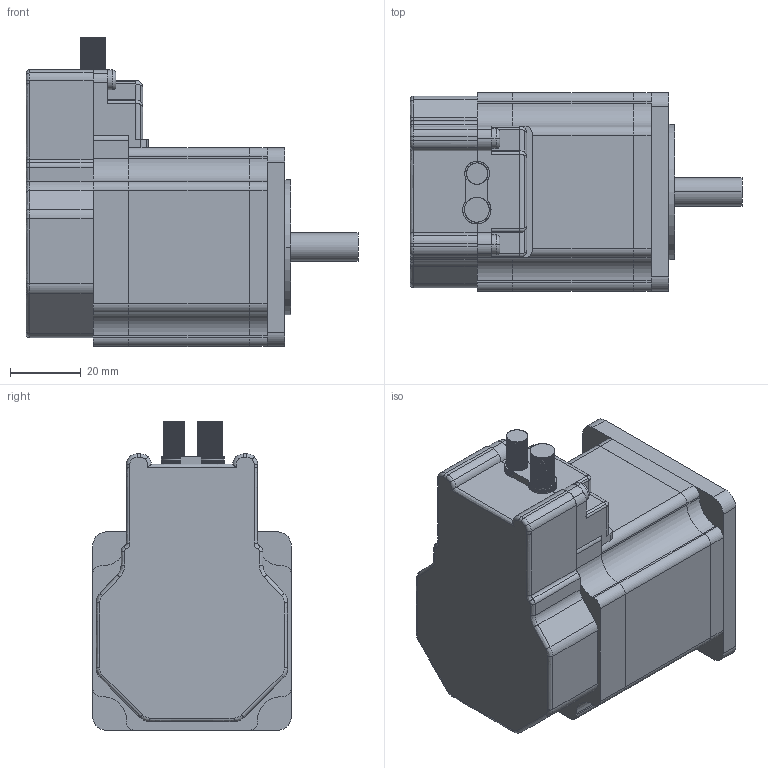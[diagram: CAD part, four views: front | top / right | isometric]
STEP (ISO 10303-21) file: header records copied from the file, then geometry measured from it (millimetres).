
FILE_DESCRIPTION(('STEP AP214'),'1');
FILE_NAME('\Tsurumi-main\3d_dad2\Servo_Motor\tmp0.STEP',' ',(' '),(' '),'XStep 1.0',' ',' ');
FILE_SCHEMA(('automotive_design'));
Length unit declared in the file: millimetre
Bounding box: 93.59 x 56 x 87.11 mm (x, y, z)
Volume: 227211.7 mm3; surface area: 52455 mm2
Topology: 13 solids, 13 shells, 708 faces, 1997 edges, 1313 vertices
Faces by surface type: plane 540, cylinder 130, bspline 28, torus 10
Entity records: 29536 total; most frequent: CARTESIAN_POINT 5083, ORIENTED_EDGE 3986, DIRECTION 3678, EDGE_CURVE 1993, LINE 1678, VECTOR 1678, VERTEX_POINT 1313, AXIS2_PLACEMENT_3D 1000
